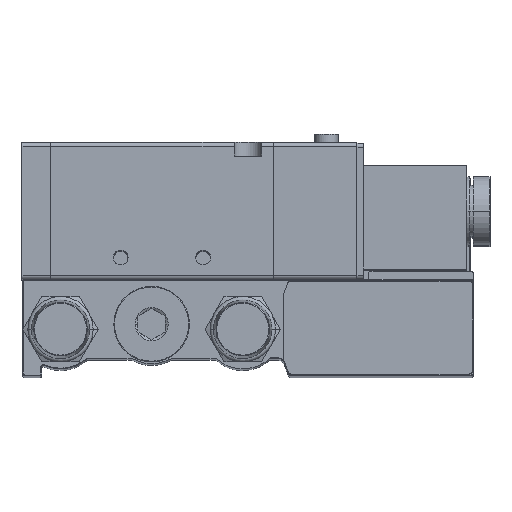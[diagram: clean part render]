
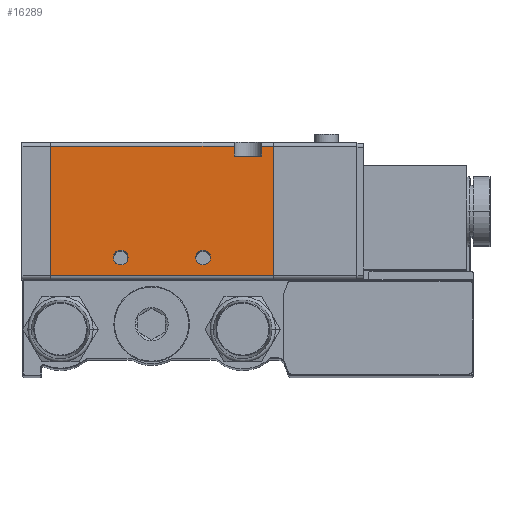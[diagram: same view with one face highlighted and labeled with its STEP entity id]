
A CAD part, top view. The second image highlights one B-rep face of the part: STEP entity #16289.
In plain terms, the highlighted planar face has unit normal (0, 0, 1) as drawn and (1, 0, 0) by its records, which use the part's own axes.
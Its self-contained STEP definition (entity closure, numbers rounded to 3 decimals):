
#6 = DIRECTION ( 'NONE',  ( 1., 0., 0. ) ) ;
#678 = CARTESIAN_POINT ( 'NONE',  ( 13.5, 16., -53.5 ) ) ;
#890 = ORIENTED_EDGE ( 'NONE', *, *, #27796, .T. ) ;
#1055 = FACE_OUTER_BOUND ( 'NONE', #28967, .T. ) ;
#1405 = EDGE_CURVE ( 'NONE', #38272, #28067, #53522, .T. ) ;
#1918 = CIRCLE ( 'NONE', #44037, 2.15 ) ;
#2143 = CARTESIAN_POINT ( 'NONE',  ( 13.5, -18.8, -65. ) ) ;
#2843 = CARTESIAN_POINT ( 'NONE',  ( 13.5, -13.5, -42.35 ) ) ;
#3733 = ORIENTED_EDGE ( 'NONE', *, *, #50914, .T. ) ;
#4256 = ORIENTED_EDGE ( 'NONE', *, *, #43564, .F. ) ;
#4755 = VECTOR ( 'NONE', #53463, 1000. ) ;
#5246 = EDGE_CURVE ( 'NONE', #12155, #25522, #39750, .T. ) ;
#5695 = DIRECTION ( 'NONE',  ( 0., 0., 1. ) ) ;
#6413 = DIRECTION ( 'NONE',  ( 0., 0., 1. ) ) ;
#7516 = ORIENTED_EDGE ( 'NONE', *, *, #5246, .F. ) ;
#8471 = VERTEX_POINT ( 'NONE', #24683 ) ;
#8712 = CARTESIAN_POINT ( 'NONE',  ( 13.5, 16., -61.5 ) ) ;
#9201 = PLANE ( 'NONE',  #43199 ) ;
#9816 = CARTESIAN_POINT ( 'NONE',  ( 13.5, 18.8, -65. ) ) ;
#9839 = DIRECTION ( 'NONE',  ( 0., 1., 0. ) ) ;
#10019 = FACE_BOUND ( 'NONE', #48575, .T. ) ;
#10466 = EDGE_CURVE ( 'NONE', #13446, #48341, #16854, .T. ) ;
#11049 = CARTESIAN_POINT ( 'NONE',  ( 13.5, -18.8, 0. ) ) ;
#12155 = VERTEX_POINT ( 'NONE', #43624 ) ;
#13446 = VERTEX_POINT ( 'NONE', #24374 ) ;
#13672 = VECTOR ( 'NONE', #6413, 1000. ) ;
#13689 = CARTESIAN_POINT ( 'NONE',  ( 13.5, 18.8, -65. ) ) ;
#13938 = VERTEX_POINT ( 'NONE', #15603 ) ;
#14205 = CARTESIAN_POINT ( 'NONE',  ( 13.5, -13.5, -44.5 ) ) ;
#15603 = CARTESIAN_POINT ( 'NONE',  ( 13.5, 18.8, -53.5 ) ) ;
#16202 = ORIENTED_EDGE ( 'NONE', *, *, #44933, .F. ) ;
#16289 = ADVANCED_FACE ( 'NONE', ( #18439, #10019, #1055 ), #9201, .T. ) ;
#16854 = CIRCLE ( 'NONE', #49092, 2.15 ) ;
#16998 = DIRECTION ( 'NONE',  ( 0., 1., 0. ) ) ;
#18439 = FACE_BOUND ( 'NONE', #53757, .T. ) ;
#18538 = VECTOR ( 'NONE', #47264, 1000. ) ;
#18647 = ORIENTED_EDGE ( 'NONE', *, *, #28194, .F. ) ;
#18703 = CARTESIAN_POINT ( 'NONE',  ( 13.5, -13.5, -18.35 ) ) ;
#18741 = EDGE_CURVE ( 'NONE', #38779, #34514, #43528, .T. ) ;
#20577 = CARTESIAN_POINT ( 'NONE',  ( 13.5, -13.5, -20.5 ) ) ;
#21141 = CARTESIAN_POINT ( 'NONE',  ( 13.5, 16., -61.5 ) ) ;
#21929 = CARTESIAN_POINT ( 'NONE',  ( 13.5, 16., -53.5 ) ) ;
#22409 = VERTEX_POINT ( 'NONE', #21929 ) ;
#23197 = VECTOR ( 'NONE', #9839, 1000. ) ;
#24099 = LINE ( 'NONE', #45683, #31774 ) ;
#24374 = CARTESIAN_POINT ( 'NONE',  ( 13.5, -13.5, -22.65 ) ) ;
#24683 = CARTESIAN_POINT ( 'NONE',  ( 13.5, 18.8, 0. ) ) ;
#25061 = DIRECTION ( 'NONE',  ( 0., 0., -1. ) ) ;
#25066 = DIRECTION ( 'NONE',  ( 0., 0., -1. ) ) ;
#25340 = CARTESIAN_POINT ( 'NONE',  ( 13.5, -13.5, -44.5 ) ) ;
#25522 = VERTEX_POINT ( 'NONE', #2843 ) ;
#25919 = CARTESIAN_POINT ( 'NONE',  ( 13.5, 18.8, -61.5 ) ) ;
#26832 = DIRECTION ( 'NONE',  ( 0., 0., -1. ) ) ;
#26868 = DIRECTION ( 'NONE',  ( 0., 1., 0. ) ) ;
#27796 = EDGE_CURVE ( 'NONE', #50777, #34514, #48256, .T. ) ;
#28067 = VERTEX_POINT ( 'NONE', #11049 ) ;
#28194 = EDGE_CURVE ( 'NONE', #48341, #13446, #1918, .T. ) ;
#28967 = EDGE_LOOP ( 'NONE', ( #3733, #890, #29959, #4256, #40007, #38302, #36394, #41972 ) ) ;
#29258 = DIRECTION ( 'NONE',  ( 1., 0., 0. ) ) ;
#29280 = EDGE_CURVE ( 'NONE', #28067, #8471, #38891, .T. ) ;
#29630 = CARTESIAN_POINT ( 'NONE',  ( 13.5, -18.8, 0. ) ) ;
#29893 = VECTOR ( 'NONE', #5695, 1000. ) ;
#29959 = ORIENTED_EDGE ( 'NONE', *, *, #18741, .F. ) ;
#31774 = VECTOR ( 'NONE', #38038, 1000. ) ;
#33493 = DIRECTION ( 'NONE',  ( 1., 0., 0. ) ) ;
#34364 = LINE ( 'NONE', #678, #18538 ) ;
#34514 = VERTEX_POINT ( 'NONE', #25919 ) ;
#34608 = LINE ( 'NONE', #44149, #29893 ) ;
#35014 = CARTESIAN_POINT ( 'NONE',  ( 13.5, -18.8, -65. ) ) ;
#35935 = VECTOR ( 'NONE', #40111, 1000. ) ;
#36394 = ORIENTED_EDGE ( 'NONE', *, *, #29280, .F. ) ;
#38038 = DIRECTION ( 'NONE',  ( 0., 1., 0. ) ) ;
#38272 = VERTEX_POINT ( 'NONE', #45969 ) ;
#38302 = ORIENTED_EDGE ( 'NONE', *, *, #38809, .T. ) ;
#38779 = VERTEX_POINT ( 'NONE', #21141 ) ;
#38809 = EDGE_CURVE ( 'NONE', #13938, #8471, #34608, .T. ) ;
#38891 = LINE ( 'NONE', #29630, #45884 ) ;
#39290 = DIRECTION ( 'NONE',  ( 0., 0., -1. ) ) ;
#39750 = CIRCLE ( 'NONE', #41518, 2.15 ) ;
#40007 = ORIENTED_EDGE ( 'NONE', *, *, #52412, .T. ) ;
#40040 = DIRECTION ( 'NONE',  ( 1., 0., 0. ) ) ;
#40094 = CARTESIAN_POINT ( 'NONE',  ( 13.5, -18.8, -65. ) ) ;
#40111 = DIRECTION ( 'NONE',  ( 0., 0., 1. ) ) ;
#40312 = LINE ( 'NONE', #2143, #4755 ) ;
#41518 = AXIS2_PLACEMENT_3D ( 'NONE', #25340, #29258, #25061 ) ;
#41972 = ORIENTED_EDGE ( 'NONE', *, *, #1405, .F. ) ;
#42734 = CIRCLE ( 'NONE', #47215, 2.15 ) ;
#43199 = AXIS2_PLACEMENT_3D ( 'NONE', #35014, #40040, #26868 ) ;
#43528 = LINE ( 'NONE', #8712, #23197 ) ;
#43564 = EDGE_CURVE ( 'NONE', #22409, #38779, #34364, .T. ) ;
#43624 = CARTESIAN_POINT ( 'NONE',  ( 13.5, -13.5, -46.65 ) ) ;
#44037 = AXIS2_PLACEMENT_3D ( 'NONE', #20577, #33493, #25066 ) ;
#44149 = CARTESIAN_POINT ( 'NONE',  ( 13.5, 18.8, -65. ) ) ;
#44933 = EDGE_CURVE ( 'NONE', #25522, #12155, #42734, .T. ) ;
#45683 = CARTESIAN_POINT ( 'NONE',  ( 13.5, 16., -53.5 ) ) ;
#45884 = VECTOR ( 'NONE', #16998, 1000. ) ;
#45969 = CARTESIAN_POINT ( 'NONE',  ( 13.5, -18.8, -65. ) ) ;
#47215 = AXIS2_PLACEMENT_3D ( 'NONE', #14205, #53183, #26832 ) ;
#47264 = DIRECTION ( 'NONE',  ( 0., 0., -1. ) ) ;
#48256 = LINE ( 'NONE', #9816, #35935 ) ;
#48341 = VERTEX_POINT ( 'NONE', #18703 ) ;
#48575 = EDGE_LOOP ( 'NONE', ( #18647, #55181 ) ) ;
#49092 = AXIS2_PLACEMENT_3D ( 'NONE', #51912, #6, #39290 ) ;
#50777 = VERTEX_POINT ( 'NONE', #13689 ) ;
#50914 = EDGE_CURVE ( 'NONE', #38272, #50777, #40312, .T. ) ;
#51912 = CARTESIAN_POINT ( 'NONE',  ( 13.5, -13.5, -20.5 ) ) ;
#52412 = EDGE_CURVE ( 'NONE', #22409, #13938, #24099, .T. ) ;
#53183 = DIRECTION ( 'NONE',  ( 1., 0., 0. ) ) ;
#53463 = DIRECTION ( 'NONE',  ( 0., 1., 0. ) ) ;
#53522 = LINE ( 'NONE', #40094, #13672 ) ;
#53757 = EDGE_LOOP ( 'NONE', ( #16202, #7516 ) ) ;
#55181 = ORIENTED_EDGE ( 'NONE', *, *, #10466, .F. ) ;
